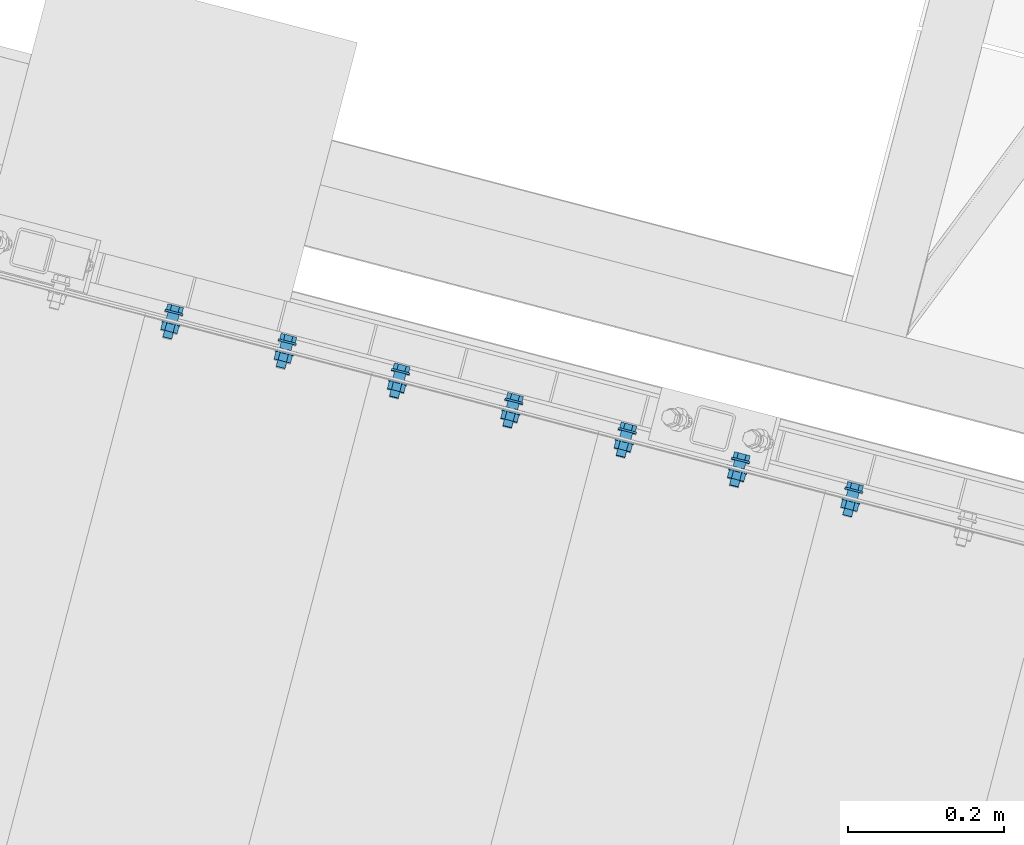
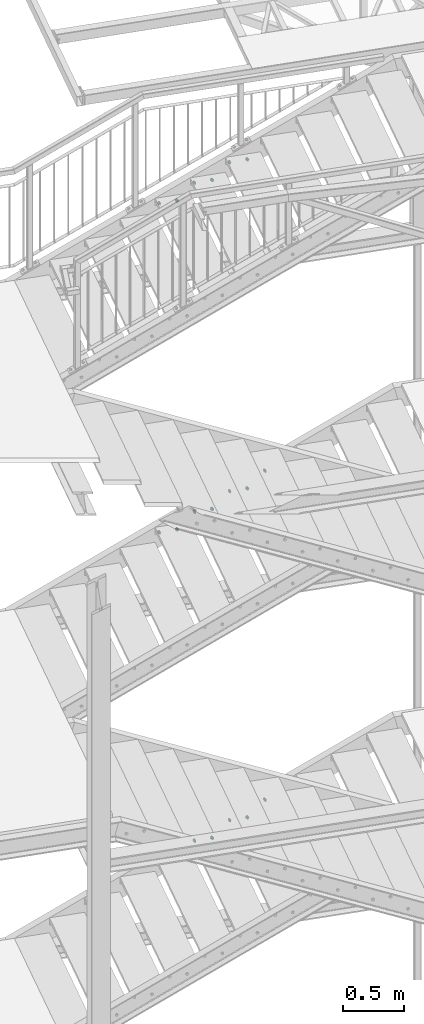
# One storey, part 150 of 169: 18 mechanical fasteners, 10 elements without a shape of their own.
"""IFC2X3 building model written with IfcOpenShell, lengths in millimetres."""

from ifc_helpers import new_model, si_unit, frame, frame_2d, origin_with_axes, origin_2d_with_axis, place, context, subcontext, project, spatial, polyline, circle_curve, parameter, trimmed, segment, composite_curve, circle, outline, extrude, source, transform, mapped, material, type_object, element, aggregate, save


model = new_model("IFC2X3")

# Units and contexts
model_context = context("Model", 3, precision=1e-05, world=origin_with_axes())
body_context = subcontext(model_context, "Body", "Model", "MODEL_VIEW")
ifc_project = project(units=[si_unit("LENGTHUNIT", "METRE", prefix="MILLI"), si_unit("AREAUNIT", "SQUARE_METRE"), si_unit("VOLUMEUNIT", "CUBIC_METRE"), si_unit("MASSUNIT", "GRAM", prefix="KILO"), si_unit("TIMEUNIT", "SECOND"), si_unit("PLANEANGLEUNIT", "RADIAN"), si_unit("SOLIDANGLEUNIT", "STERADIAN"), si_unit("THERMODYNAMICTEMPERATUREUNIT", "DEGREE_CELSIUS"), si_unit("LUMINOUSINTENSITYUNIT", "LUMEN")], contexts=[model_context])

# Site, building, storey
site_placement = place(None, origin_with_axes())
site = spatial("IfcSite", under=ifc_project, at=site_placement, Name="Undefined", CompositionType="ELEMENT")
building_placement = place(site_placement, origin_with_axes())
building = spatial("IfcBuilding", under=site, at=building_placement, Name="Undefined", CompositionType="ELEMENT")
storey_placement = place(building_placement, origin_with_axes())
storey = spatial("IfcBuildingStorey", under=building, at=storey_placement, Name="Undefined", CompositionType="ELEMENT", Elevation=0.0)

# Assembly, mechanical fastener
assembly_1_placement = place(storey_placement, origin_with_axes())
assembly_1 = element("IfcElementAssembly", 1, at=assembly_1_placement, inside=storey, Name="Steel Assembly", AssemblyPlace="NOTDEFINED", PredefinedType="RIGID_FRAME")
ifc_material = material(Name="Undefined")
discrete_accessory_type = type_object("IfcDiscreteAccessoryType", Name="Bolt assembly")
shared_shape_1 = source(origin_with_axes(), body_context, "Body", "SweptSolid", [
    extrude(circle(Radius=7.5, at=origin_2d_with_axis()), frame((0.0, -8.39999975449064, 0.0), z_axis=(0.0, 1.0, 0.0), x_axis=(1.0, 0.0, 0.0)), (0.0, 0.0, 1.0), 8.5),
    extrude(circle(Radius=7.5, at=origin_2d_with_axis()), frame((0.0, -0.100000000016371, 0.0), z_axis=(0.0, 1.0, 0.0), x_axis=(1.0, 0.0, 0.0)), (0.0, 0.0, 1.0), 3.1),
    extrude(outline(polyline([(10.39230484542, 0.0), (5.19615242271, 9.00000000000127), (-5.19615242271, 9.00000000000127), (-10.39230484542, 0.0), (-5.19615242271, -9.00000000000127), (5.19615242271, -9.00000000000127), (10.39230484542, 0.0)])), frame((0.0, -18.4999993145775, 0.0), z_axis=(0.0, 1.0, 0.0), x_axis=(1.0, 0.0, 0.0)), (0.0, 0.0, 1.0), 7.5),
    extrude(circle(Radius=6.0, at=origin_2d_with_axis()), frame((0.0, -10.9999999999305, 0.0), z_axis=(0.0, 1.0, 0.0), x_axis=(1.0, 0.0, 0.0)), (0.0, 0.0, 1.0), 35.0),
    extrude(circle(Radius=12.0, at=origin_2d_with_axis()), frame((0.0, -10.9999999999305, 0.0), z_axis=(0.0, 1.0, 0.0), x_axis=(1.0, 0.0, 0.0)), (0.0, 0.0, 1.0), 2.5),
    extrude(circle(Radius=12.0, at=origin_2d_with_axis()), frame((0.0, 2.99999999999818, 0.0), z_axis=(0.0, 1.0, 0.0), x_axis=(1.0, 0.0, 0.0)), (0.0, 0.0, 1.0), 2.5),
    extrude(outline(polyline([(10.96965511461, 0.0), (5.484827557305, 9.50000000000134), (-5.484827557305, 9.50000000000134), (-10.96965511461, 0.0), (-5.484827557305, -9.50000000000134), (5.484827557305, -9.50000000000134), (10.96965511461, 0.0)])), frame((0.0, 5.50000000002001, 0.0), z_axis=(0.0, 1.0, 0.0), x_axis=(1.0, 0.0, 0.0)), (0.0, 0.0, 1.0), 10.0),
])
mechanical_fastener_1_placement = place(assembly_1_placement, frame((-25824.2027899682, 8309.89860912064, 13250.0957858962), z_axis=(-2.54700353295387e-10, 0.0, -1.0), x_axis=(0.967580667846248, -0.252562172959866, 0.0)))
mechanical_fastener_1 = element("IfcMechanicalFastener", 2, at=mechanical_fastener_1_placement, type_object=discrete_accessory_type, material=ifc_material, Name="Bolt assembly", NominalDiameter=12.0, NominalLength=35.0, context=body_context, shape_type="MappedRepresentation", body=[
    mapped(shared_shape_1, transform((35.0000000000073, -1.23691279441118e-10, 25.0))),
])

assembly_2_placement = place(storey_placement, origin_with_axes())
assembly_2 = element("IfcElementAssembly", 3, at=assembly_2_placement, inside=storey, Name="Steel Assembly", AssemblyPlace="NOTDEFINED", PredefinedType="RIGID_FRAME")
mechanical_fastener_2_placement = place(assembly_2_placement, frame((-26114.4769937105, 8385.66726192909, 13100.0957858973), z_axis=(-2.54700353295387e-10, 0.0, -1.0), x_axis=(0.967580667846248, -0.252562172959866, 0.0)))
mechanical_fastener_2 = element("IfcMechanicalFastener", 4, at=mechanical_fastener_2_placement, type_object=discrete_accessory_type, material=ifc_material, Name="Bolt assembly", NominalDiameter=12.0, NominalLength=35.0, context=body_context, shape_type="MappedRepresentation", body=[
    mapped(shared_shape_1, transform((35.0000000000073, -1.23691279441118e-10, 25.0))),
])

assembly_3_placement = place(storey_placement, origin_with_axes())
assembly_3 = element("IfcElementAssembly", 5, at=assembly_3_placement, inside=storey, Name="Steel Assembly", AssemblyPlace="NOTDEFINED", PredefinedType="RIGID_FRAME")
mechanical_fastener_3_placement = place(assembly_3_placement, frame((-26404.7511974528, 8461.43591473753, 12950.0957858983), z_axis=(-2.54700353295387e-10, 0.0, -1.0), x_axis=(0.967580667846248, -0.252562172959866, 0.0)))
mechanical_fastener_3 = element("IfcMechanicalFastener", 6, at=mechanical_fastener_3_placement, type_object=discrete_accessory_type, material=ifc_material, Name="Bolt assembly", NominalDiameter=12.0, NominalLength=35.0, context=body_context, shape_type="MappedRepresentation", body=[
    mapped(shared_shape_1, transform((35.0000000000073, -1.23691279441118e-10, 25.0))),
])

assembly_4_placement = place(storey_placement, origin_with_axes())
assembly_4 = element("IfcElementAssembly", 7, at=assembly_4_placement, inside=storey, Name="Steel Assembly", AssemblyPlace="NOTDEFINED", PredefinedType="RIGID_FRAME")
mechanical_fastener_4_placement = place(assembly_4_placement, frame((-25534.0426635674, 8233.69304134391, 10100.0958168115), z_axis=(-2.54700353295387e-10, 0.0, -1.0), x_axis=(0.967580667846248, -0.252562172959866, 0.0)))
mechanical_fastener_4 = element("IfcMechanicalFastener", 8, at=mechanical_fastener_4_placement, type_object=discrete_accessory_type, material=ifc_material, Name="Bolt assembly", NominalDiameter=12.0, NominalLength=35.0, context=body_context, shape_type="MappedRepresentation", body=[
    mapped(shared_shape_1, transform((35.0000000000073, -1.23691279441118e-10, 25.0))),
])
aggregate(assembly_4, [mechanical_fastener_4])

assembly_5_placement = place(storey_placement, origin_with_axes())
assembly_5 = element("IfcElementAssembly", 9, at=assembly_5_placement, inside=storey, Name="Steel Assembly", AssemblyPlace="NOTDEFINED", PredefinedType="RIGID_FRAME")
mechanical_fastener_5_placement = place(assembly_5_placement, frame((-25824.3168673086, 8309.46169415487, 9950.09581681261), z_axis=(-2.54700353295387e-10, 0.0, -1.0), x_axis=(0.967580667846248, -0.252562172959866, 0.0)))
mechanical_fastener_5 = element("IfcMechanicalFastener", 10, at=mechanical_fastener_5_placement, type_object=discrete_accessory_type, material=ifc_material, Name="Bolt assembly", NominalDiameter=12.0, NominalLength=35.0, context=body_context, shape_type="MappedRepresentation", body=[
    mapped(shared_shape_1, transform((35.0000000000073, -1.23691279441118e-10, 25.0))),
])

assembly_6_placement = place(storey_placement, origin_with_axes())
assembly_6 = element("IfcElementAssembly", 11, at=assembly_6_placement, inside=storey, Name="Steel Assembly", AssemblyPlace="NOTDEFINED", PredefinedType="RIGID_FRAME")
mechanical_fastener_6_placement = place(assembly_6_placement, frame((-26114.5910710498, 8385.23034696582, 9800.09581681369), z_axis=(-2.54700353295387e-10, 0.0, -1.0), x_axis=(0.967580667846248, -0.252562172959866, 0.0)))
mechanical_fastener_6 = element("IfcMechanicalFastener", 12, at=mechanical_fastener_6_placement, type_object=discrete_accessory_type, material=ifc_material, Name="Bolt assembly", NominalDiameter=12.0, NominalLength=35.0, context=body_context, shape_type="MappedRepresentation", body=[
    mapped(shared_shape_1, transform((35.0000000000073, -1.23691279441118e-10, 25.0))),
])

assembly_7_placement = place(storey_placement, origin_with_axes())
assembly_7 = element("IfcElementAssembly", 13, at=assembly_7_placement, inside=storey, Name="Steel Assembly", AssemblyPlace="NOTDEFINED", PredefinedType="RIGID_FRAME")
mechanical_fastener_7_placement = place(assembly_7_placement, frame((-26404.865274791, 8460.99899977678, 9650.09581681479), z_axis=(-2.54700353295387e-10, 0.0, -1.0), x_axis=(0.967580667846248, -0.252562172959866, 0.0)))
mechanical_fastener_7 = element("IfcMechanicalFastener", 14, at=mechanical_fastener_7_placement, type_object=discrete_accessory_type, material=ifc_material, Name="Bolt assembly", NominalDiameter=12.0, NominalLength=35.0, context=body_context, shape_type="MappedRepresentation", body=[
    mapped(shared_shape_1, transform((35.0000000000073, -1.23691279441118e-10, 25.0))),
])

assembly_8_placement = place(storey_placement, origin_with_axes())
assembly_8 = element("IfcElementAssembly", 15, at=assembly_8_placement, inside=storey, Name="Steel Assembly", AssemblyPlace="NOTDEFINED", PredefinedType="RIGID_FRAME")
mechanical_fastener_8_placement = place(assembly_8_placement, frame((-25534.1567410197, 8233.25612638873, 6800.09584768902), z_axis=(-2.54700353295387e-10, 0.0, -1.0), x_axis=(0.967580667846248, -0.252562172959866, 0.0)))
mechanical_fastener_8 = element("IfcMechanicalFastener", 16, at=mechanical_fastener_8_placement, type_object=discrete_accessory_type, material=ifc_material, Name="Bolt assembly", NominalDiameter=12.0, NominalLength=35.0, context=body_context, shape_type="MappedRepresentation", body=[
    mapped(shared_shape_1, transform((35.0000000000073, -1.23691279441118e-10, 25.0))),
])
aggregate(assembly_8, [mechanical_fastener_8])

assembly_9_placement = place(storey_placement, origin_with_axes())
assembly_9 = element("IfcElementAssembly", 17, at=assembly_9_placement, inside=storey, Name="Steel Assembly", AssemblyPlace="NOTDEFINED", PredefinedType="RIGID_FRAME")
mechanical_fastener_9_placement = place(assembly_9_placement, frame((-25824.4309447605, 8309.02477919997, 6650.09584768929), z_axis=(-2.54700353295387e-10, 0.0, -1.0), x_axis=(0.967580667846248, -0.252562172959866, 0.0)))
mechanical_fastener_9 = element("IfcMechanicalFastener", 18, at=mechanical_fastener_9_placement, type_object=discrete_accessory_type, material=ifc_material, Name="Bolt assembly", NominalDiameter=12.0, NominalLength=35.0, context=body_context, shape_type="MappedRepresentation", body=[
    mapped(shared_shape_1, transform((35.0000000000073, -1.23691279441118e-10, 25.0))),
])

assembly_10_placement = place(storey_placement, origin_with_axes())
assembly_10 = element("IfcElementAssembly", 19, at=assembly_10_placement, inside=storey, Name="Steel Assembly", AssemblyPlace="NOTDEFINED", PredefinedType="RIGID_FRAME")
mechanical_fastener_10_placement = place(assembly_10_placement, frame((-26114.7051485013, 8384.7934320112, 6500.09584768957), z_axis=(-2.54700353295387e-10, 0.0, -1.0), x_axis=(0.967580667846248, -0.252562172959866, 0.0)))
mechanical_fastener_10 = element("IfcMechanicalFastener", 20, at=mechanical_fastener_10_placement, type_object=discrete_accessory_type, material=ifc_material, Name="Bolt assembly", NominalDiameter=12.0, NominalLength=35.0, context=body_context, shape_type="MappedRepresentation", body=[
    mapped(shared_shape_1, transform((35.0000000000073, -1.23691279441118e-10, 25.0))),
])

# Mechanical fastener
shared_shape_2 = source(origin_with_axes(), body_context, "Body", "SweptSolid", [
    extrude(circle(Radius=7.5, at=origin_2d_with_axis()), frame((0.0, -8.39999975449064, 0.0), z_axis=(0.0, 1.0, 0.0), x_axis=(1.0, 0.0, 0.0)), (0.0, 0.0, 1.0), 8.5),
    extrude(outline(composite_curve([segment(polyline([(-10.0, 7.5), (10.0, 7.5)]), True, "CONTINUOUS"), segment(trimmed(circle_curve(frame_2d((10.0, 0.0), x_axis=(0.0, 1.0)), 7.5), [parameter(0.0)], [parameter(3.14159265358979)], False, "PARAMETER"), True, "CONTINUOUS"), segment(polyline([(10.0, -7.5), (-10.0, -7.5)]), True, "CONTINUOUS"), segment(trimmed(circle_curve(frame_2d((-10.0, 0.0), x_axis=(0.0, -1.0)), 7.5), [parameter(0.0)], [parameter(3.14159265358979)], False, "PARAMETER"), True, "DISCONTINUOUS")], self_intersect=False)), frame((0.0, -0.100000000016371, 0.0), z_axis=(0.0, 1.0, 0.0), x_axis=(1.0, 0.0, 0.0)), (0.0, 0.0, 1.0), 3.1),
    extrude(outline(polyline([(10.39230484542, 0.0), (5.19615242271, 9.00000000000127), (-5.19615242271, 9.00000000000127), (-10.39230484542, 0.0), (-5.19615242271, -9.00000000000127), (5.19615242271, -9.00000000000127), (10.39230484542, 0.0)])), frame((0.0, -18.4999993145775, 0.0), z_axis=(0.0, 1.0, 0.0), x_axis=(1.0, 0.0, 0.0)), (0.0, 0.0, 1.0), 7.5),
    extrude(circle(Radius=6.0, at=origin_2d_with_axis()), frame((0.0, -10.9999999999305, 0.0), z_axis=(0.0, 1.0, 0.0), x_axis=(1.0, 0.0, 0.0)), (0.0, 0.0, 1.0), 35.0),
    extrude(circle(Radius=12.0, at=origin_2d_with_axis()), frame((0.0, -10.9999999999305, 0.0), z_axis=(0.0, 1.0, 0.0), x_axis=(1.0, 0.0, 0.0)), (0.0, 0.0, 1.0), 2.5),
    extrude(circle(Radius=12.0, at=origin_2d_with_axis()), frame((0.0, 2.99999999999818, 0.0), z_axis=(0.0, 1.0, 0.0), x_axis=(1.0, 0.0, 0.0)), (0.0, 0.0, 1.0), 2.5),
    extrude(outline(polyline([(10.96965511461, 0.0), (5.484827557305, 9.50000000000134), (-5.484827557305, 9.50000000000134), (-10.96965511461, 0.0), (-5.484827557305, -9.50000000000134), (5.484827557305, -9.50000000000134), (10.96965511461, 0.0)])), frame((0.0, 5.50000000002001, 0.0), z_axis=(0.0, 1.0, 0.0), x_axis=(1.0, 0.0, 0.0)), (0.0, 0.0, 1.0), 10.0),
])
mechanical_fastener_11_placement = place(assembly_1_placement, frame((-25824.2027899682, 8309.89860912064, 13250.0957858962), z_axis=(-2.54700353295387e-10, 0.0, -1.0), x_axis=(0.967580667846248, -0.252562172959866, 0.0)))
mechanical_fastener_11 = element("IfcMechanicalFastener", 21, at=mechanical_fastener_11_placement, type_object=discrete_accessory_type, material=ifc_material, Name="Bolt assembly", NominalDiameter=12.0, NominalLength=35.0, context=body_context, shape_type="MappedRepresentation", body=[
    mapped(shared_shape_2, transform((185.00000000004, -6.51198206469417e-10, 25.0))),
])

aggregate(assembly_1, [mechanical_fastener_11, mechanical_fastener_1])

shared_shape_3 = source(origin_with_axes(), body_context, "Body", "SweptSolid", [
    extrude(circle(Radius=7.5, at=origin_2d_with_axis()), frame((0.0, -8.39999975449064, 0.0), z_axis=(0.0, 1.0, 0.0), x_axis=(1.0, 0.0, 0.0)), (0.0, 0.0, 1.0), 8.5),
    extrude(outline(composite_curve([segment(polyline([(-10.0, 7.5), (10.0, 7.5)]), True, "CONTINUOUS"), segment(trimmed(circle_curve(frame_2d((10.0, 0.0), x_axis=(0.0, 1.0)), 7.5), [parameter(0.0)], [parameter(3.14159265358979)], False, "PARAMETER"), True, "CONTINUOUS"), segment(polyline([(10.0, -7.5), (-10.0, -7.5)]), True, "CONTINUOUS"), segment(trimmed(circle_curve(frame_2d((-10.0, 0.0), x_axis=(0.0, -1.0)), 7.5), [parameter(0.0)], [parameter(3.14159265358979)], False, "PARAMETER"), True, "DISCONTINUOUS")], self_intersect=False)), frame((0.0, -0.100000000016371, 0.0), z_axis=(0.0, 1.0, 0.0), x_axis=(1.0, 0.0, 0.0)), (0.0, 0.0, 1.0), 3.1),
    extrude(outline(polyline([(10.39230484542, 0.0), (5.19615242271, 9.00000000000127), (-5.19615242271, 9.00000000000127), (-10.39230484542, 0.0), (-5.19615242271, -9.00000000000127), (5.19615242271, -9.00000000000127), (10.39230484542, 0.0)])), frame((0.0, -18.4999993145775, 0.0), z_axis=(0.0, 1.0, 0.0), x_axis=(1.0, 0.0, 0.0)), (0.0, 0.0, 1.0), 7.5),
    extrude(circle(Radius=6.0, at=origin_2d_with_axis()), frame((0.0, -10.9999999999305, 0.0), z_axis=(0.0, 1.0, 0.0), x_axis=(1.0, 0.0, 0.0)), (0.0, 0.0, 1.0), 35.0),
    extrude(circle(Radius=12.0, at=origin_2d_with_axis()), frame((0.0, -10.9999999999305, 0.0), z_axis=(0.0, 1.0, 0.0), x_axis=(1.0, 0.0, 0.0)), (0.0, 0.0, 1.0), 2.5),
    extrude(circle(Radius=12.0, at=origin_2d_with_axis()), frame((0.0, 2.99999999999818, 0.0), z_axis=(0.0, 1.0, 0.0), x_axis=(1.0, 0.0, 0.0)), (0.0, 0.0, 1.0), 2.5),
    extrude(outline(polyline([(10.96965511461, 0.0), (5.484827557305, 9.50000000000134), (-5.484827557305, 9.50000000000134), (-10.96965511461, 0.0), (-5.484827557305, -9.50000000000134), (5.484827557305, -9.50000000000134), (10.96965511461, 0.0)])), frame((0.0, 5.50000000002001, 0.0), z_axis=(0.0, 1.0, 0.0), x_axis=(1.0, 0.0, 0.0)), (0.0, 0.0, 1.0), 10.0),
])
mechanical_fastener_12_placement = place(assembly_2_placement, frame((-26114.4769937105, 8385.66726192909, 13100.0957858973), z_axis=(-2.54700353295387e-10, 0.0, -1.0), x_axis=(0.967580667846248, -0.252562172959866, 0.0)))
mechanical_fastener_12 = element("IfcMechanicalFastener", 22, at=mechanical_fastener_12_placement, type_object=discrete_accessory_type, material=ifc_material, Name="Bolt assembly", NominalDiameter=12.0, NominalLength=35.0, context=body_context, shape_type="MappedRepresentation", body=[
    mapped(shared_shape_3, transform((185.00000000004, -6.51198206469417e-10, 25.0))),
])

aggregate(assembly_2, [mechanical_fastener_12, mechanical_fastener_2])

shared_shape_4 = source(origin_with_axes(), body_context, "Body", "SweptSolid", [
    extrude(circle(Radius=7.5, at=origin_2d_with_axis()), frame((0.0, -8.39999975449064, 0.0), z_axis=(0.0, 1.0, 0.0), x_axis=(1.0, 0.0, 0.0)), (0.0, 0.0, 1.0), 8.5),
    extrude(outline(composite_curve([segment(polyline([(-10.0, 7.5), (10.0, 7.5)]), True, "CONTINUOUS"), segment(trimmed(circle_curve(frame_2d((10.0, 0.0), x_axis=(0.0, 1.0)), 7.5), [parameter(0.0)], [parameter(3.14159265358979)], False, "PARAMETER"), True, "CONTINUOUS"), segment(polyline([(10.0, -7.5), (-10.0, -7.5)]), True, "CONTINUOUS"), segment(trimmed(circle_curve(frame_2d((-10.0, 0.0), x_axis=(0.0, -1.0)), 7.5), [parameter(0.0)], [parameter(3.14159265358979)], False, "PARAMETER"), True, "DISCONTINUOUS")], self_intersect=False)), frame((0.0, -0.100000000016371, 0.0), z_axis=(0.0, 1.0, 0.0), x_axis=(1.0, 0.0, 0.0)), (0.0, 0.0, 1.0), 3.1),
    extrude(outline(polyline([(10.39230484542, 0.0), (5.19615242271, 9.00000000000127), (-5.19615242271, 9.00000000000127), (-10.39230484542, 0.0), (-5.19615242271, -9.00000000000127), (5.19615242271, -9.00000000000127), (10.39230484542, 0.0)])), frame((0.0, -18.4999993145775, 0.0), z_axis=(0.0, 1.0, 0.0), x_axis=(1.0, 0.0, 0.0)), (0.0, 0.0, 1.0), 7.5),
    extrude(circle(Radius=6.0, at=origin_2d_with_axis()), frame((0.0, -10.9999999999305, 0.0), z_axis=(0.0, 1.0, 0.0), x_axis=(1.0, 0.0, 0.0)), (0.0, 0.0, 1.0), 35.0),
    extrude(circle(Radius=12.0, at=origin_2d_with_axis()), frame((0.0, -10.9999999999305, 0.0), z_axis=(0.0, 1.0, 0.0), x_axis=(1.0, 0.0, 0.0)), (0.0, 0.0, 1.0), 2.5),
    extrude(circle(Radius=12.0, at=origin_2d_with_axis()), frame((0.0, 2.99999999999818, 0.0), z_axis=(0.0, 1.0, 0.0), x_axis=(1.0, 0.0, 0.0)), (0.0, 0.0, 1.0), 2.5),
    extrude(outline(polyline([(10.96965511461, 0.0), (5.484827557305, 9.50000000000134), (-5.484827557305, 9.50000000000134), (-10.96965511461, 0.0), (-5.484827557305, -9.50000000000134), (5.484827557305, -9.50000000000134), (10.96965511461, 0.0)])), frame((0.0, 5.50000000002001, 0.0), z_axis=(0.0, 1.0, 0.0), x_axis=(1.0, 0.0, 0.0)), (0.0, 0.0, 1.0), 10.0),
])
mechanical_fastener_13_placement = place(assembly_3_placement, frame((-26404.7511974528, 8461.43591473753, 12950.0957858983), z_axis=(-2.54700353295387e-10, 0.0, -1.0), x_axis=(0.967580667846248, -0.252562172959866, 0.0)))
mechanical_fastener_13 = element("IfcMechanicalFastener", 23, at=mechanical_fastener_13_placement, type_object=discrete_accessory_type, material=ifc_material, Name="Bolt assembly", NominalDiameter=12.0, NominalLength=35.0, context=body_context, shape_type="MappedRepresentation", body=[
    mapped(shared_shape_4, transform((185.00000000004, -6.51198206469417e-10, 25.0))),
])

aggregate(assembly_3, [mechanical_fastener_13, mechanical_fastener_3])

shared_shape_5 = source(origin_with_axes(), body_context, "Body", "SweptSolid", [
    extrude(circle(Radius=7.5, at=origin_2d_with_axis()), frame((0.0, -8.39999975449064, 0.0), z_axis=(0.0, 1.0, 0.0), x_axis=(1.0, 0.0, 0.0)), (0.0, 0.0, 1.0), 8.5),
    extrude(outline(composite_curve([segment(polyline([(-10.0, 7.5), (10.0, 7.5)]), True, "CONTINUOUS"), segment(trimmed(circle_curve(frame_2d((10.0, 0.0), x_axis=(0.0, 1.0)), 7.5), [parameter(0.0)], [parameter(3.14159265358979)], False, "PARAMETER"), True, "CONTINUOUS"), segment(polyline([(10.0, -7.5), (-10.0, -7.5)]), True, "CONTINUOUS"), segment(trimmed(circle_curve(frame_2d((-10.0, 0.0), x_axis=(0.0, -1.0)), 7.5), [parameter(0.0)], [parameter(3.14159265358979)], False, "PARAMETER"), True, "DISCONTINUOUS")], self_intersect=False)), frame((0.0, -0.100000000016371, 0.0), z_axis=(0.0, 1.0, 0.0), x_axis=(1.0, 0.0, 0.0)), (0.0, 0.0, 1.0), 3.1),
    extrude(outline(polyline([(10.39230484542, 0.0), (5.19615242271, 9.00000000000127), (-5.19615242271, 9.00000000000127), (-10.39230484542, 0.0), (-5.19615242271, -9.00000000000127), (5.19615242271, -9.00000000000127), (10.39230484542, 0.0)])), frame((0.0, -18.4999993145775, 0.0), z_axis=(0.0, 1.0, 0.0), x_axis=(1.0, 0.0, 0.0)), (0.0, 0.0, 1.0), 7.5),
    extrude(circle(Radius=6.0, at=origin_2d_with_axis()), frame((0.0, -10.9999999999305, 0.0), z_axis=(0.0, 1.0, 0.0), x_axis=(1.0, 0.0, 0.0)), (0.0, 0.0, 1.0), 35.0),
    extrude(circle(Radius=12.0, at=origin_2d_with_axis()), frame((0.0, -10.9999999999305, 0.0), z_axis=(0.0, 1.0, 0.0), x_axis=(1.0, 0.0, 0.0)), (0.0, 0.0, 1.0), 2.5),
    extrude(circle(Radius=12.0, at=origin_2d_with_axis()), frame((0.0, 2.99999999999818, 0.0), z_axis=(0.0, 1.0, 0.0), x_axis=(1.0, 0.0, 0.0)), (0.0, 0.0, 1.0), 2.5),
    extrude(outline(polyline([(10.96965511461, 0.0), (5.484827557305, 9.50000000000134), (-5.484827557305, 9.50000000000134), (-10.96965511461, 0.0), (-5.484827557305, -9.50000000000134), (5.484827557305, -9.50000000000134), (10.96965511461, 0.0)])), frame((0.0, 5.50000000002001, 0.0), z_axis=(0.0, 1.0, 0.0), x_axis=(1.0, 0.0, 0.0)), (0.0, 0.0, 1.0), 10.0),
])
mechanical_fastener_14_placement = place(assembly_5_placement, frame((-25824.3168673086, 8309.46169415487, 9950.09581681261), z_axis=(-2.54700353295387e-10, 0.0, -1.0), x_axis=(0.967580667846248, -0.252562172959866, 0.0)))
mechanical_fastener_14 = element("IfcMechanicalFastener", 24, at=mechanical_fastener_14_placement, type_object=discrete_accessory_type, material=ifc_material, Name="Bolt assembly", NominalDiameter=12.0, NominalLength=35.0, context=body_context, shape_type="MappedRepresentation", body=[
    mapped(shared_shape_5, transform((185.00000000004, -6.51198206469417e-10, 25.0))),
])

aggregate(assembly_5, [mechanical_fastener_14, mechanical_fastener_5])

shared_shape_6 = source(origin_with_axes(), body_context, "Body", "SweptSolid", [
    extrude(circle(Radius=7.5, at=origin_2d_with_axis()), frame((0.0, -8.39999975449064, 0.0), z_axis=(0.0, 1.0, 0.0), x_axis=(1.0, 0.0, 0.0)), (0.0, 0.0, 1.0), 8.5),
    extrude(outline(composite_curve([segment(polyline([(-10.0, 7.5), (10.0, 7.5)]), True, "CONTINUOUS"), segment(trimmed(circle_curve(frame_2d((10.0, 0.0), x_axis=(0.0, 1.0)), 7.5), [parameter(0.0)], [parameter(3.14159265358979)], False, "PARAMETER"), True, "CONTINUOUS"), segment(polyline([(10.0, -7.5), (-10.0, -7.5)]), True, "CONTINUOUS"), segment(trimmed(circle_curve(frame_2d((-10.0, 0.0), x_axis=(0.0, -1.0)), 7.5), [parameter(0.0)], [parameter(3.14159265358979)], False, "PARAMETER"), True, "DISCONTINUOUS")], self_intersect=False)), frame((0.0, -0.100000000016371, 0.0), z_axis=(0.0, 1.0, 0.0), x_axis=(1.0, 0.0, 0.0)), (0.0, 0.0, 1.0), 3.1),
    extrude(outline(polyline([(10.39230484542, 0.0), (5.19615242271, 9.00000000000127), (-5.19615242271, 9.00000000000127), (-10.39230484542, 0.0), (-5.19615242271, -9.00000000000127), (5.19615242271, -9.00000000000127), (10.39230484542, 0.0)])), frame((0.0, -18.4999993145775, 0.0), z_axis=(0.0, 1.0, 0.0), x_axis=(1.0, 0.0, 0.0)), (0.0, 0.0, 1.0), 7.5),
    extrude(circle(Radius=6.0, at=origin_2d_with_axis()), frame((0.0, -10.9999999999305, 0.0), z_axis=(0.0, 1.0, 0.0), x_axis=(1.0, 0.0, 0.0)), (0.0, 0.0, 1.0), 35.0),
    extrude(circle(Radius=12.0, at=origin_2d_with_axis()), frame((0.0, -10.9999999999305, 0.0), z_axis=(0.0, 1.0, 0.0), x_axis=(1.0, 0.0, 0.0)), (0.0, 0.0, 1.0), 2.5),
    extrude(circle(Radius=12.0, at=origin_2d_with_axis()), frame((0.0, 2.99999999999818, 0.0), z_axis=(0.0, 1.0, 0.0), x_axis=(1.0, 0.0, 0.0)), (0.0, 0.0, 1.0), 2.5),
    extrude(outline(polyline([(10.96965511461, 0.0), (5.484827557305, 9.50000000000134), (-5.484827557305, 9.50000000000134), (-10.96965511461, 0.0), (-5.484827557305, -9.50000000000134), (5.484827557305, -9.50000000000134), (10.96965511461, 0.0)])), frame((0.0, 5.50000000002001, 0.0), z_axis=(0.0, 1.0, 0.0), x_axis=(1.0, 0.0, 0.0)), (0.0, 0.0, 1.0), 10.0),
])
mechanical_fastener_15_placement = place(assembly_6_placement, frame((-26114.5910710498, 8385.23034696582, 9800.09581681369), z_axis=(-2.54700353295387e-10, 0.0, -1.0), x_axis=(0.967580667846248, -0.252562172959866, 0.0)))
mechanical_fastener_15 = element("IfcMechanicalFastener", 25, at=mechanical_fastener_15_placement, type_object=discrete_accessory_type, material=ifc_material, Name="Bolt assembly", NominalDiameter=12.0, NominalLength=35.0, context=body_context, shape_type="MappedRepresentation", body=[
    mapped(shared_shape_6, transform((185.00000000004, -6.51198206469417e-10, 25.0))),
])

aggregate(assembly_6, [mechanical_fastener_15, mechanical_fastener_6])

shared_shape_7 = source(origin_with_axes(), body_context, "Body", "SweptSolid", [
    extrude(circle(Radius=7.5, at=origin_2d_with_axis()), frame((0.0, -8.39999975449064, 0.0), z_axis=(0.0, 1.0, 0.0), x_axis=(1.0, 0.0, 0.0)), (0.0, 0.0, 1.0), 8.5),
    extrude(outline(composite_curve([segment(polyline([(-10.0, 7.5), (10.0, 7.5)]), True, "CONTINUOUS"), segment(trimmed(circle_curve(frame_2d((10.0, 0.0), x_axis=(0.0, 1.0)), 7.5), [parameter(0.0)], [parameter(3.14159265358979)], False, "PARAMETER"), True, "CONTINUOUS"), segment(polyline([(10.0, -7.5), (-10.0, -7.5)]), True, "CONTINUOUS"), segment(trimmed(circle_curve(frame_2d((-10.0, 0.0), x_axis=(0.0, -1.0)), 7.5), [parameter(0.0)], [parameter(3.14159265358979)], False, "PARAMETER"), True, "DISCONTINUOUS")], self_intersect=False)), frame((0.0, -0.100000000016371, 0.0), z_axis=(0.0, 1.0, 0.0), x_axis=(1.0, 0.0, 0.0)), (0.0, 0.0, 1.0), 3.1),
    extrude(outline(polyline([(10.39230484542, 0.0), (5.19615242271, 9.00000000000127), (-5.19615242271, 9.00000000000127), (-10.39230484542, 0.0), (-5.19615242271, -9.00000000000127), (5.19615242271, -9.00000000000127), (10.39230484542, 0.0)])), frame((0.0, -18.4999993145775, 0.0), z_axis=(0.0, 1.0, 0.0), x_axis=(1.0, 0.0, 0.0)), (0.0, 0.0, 1.0), 7.5),
    extrude(circle(Radius=6.0, at=origin_2d_with_axis()), frame((0.0, -10.9999999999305, 0.0), z_axis=(0.0, 1.0, 0.0), x_axis=(1.0, 0.0, 0.0)), (0.0, 0.0, 1.0), 35.0),
    extrude(circle(Radius=12.0, at=origin_2d_with_axis()), frame((0.0, -10.9999999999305, 0.0), z_axis=(0.0, 1.0, 0.0), x_axis=(1.0, 0.0, 0.0)), (0.0, 0.0, 1.0), 2.5),
    extrude(circle(Radius=12.0, at=origin_2d_with_axis()), frame((0.0, 2.99999999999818, 0.0), z_axis=(0.0, 1.0, 0.0), x_axis=(1.0, 0.0, 0.0)), (0.0, 0.0, 1.0), 2.5),
    extrude(outline(polyline([(10.96965511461, 0.0), (5.484827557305, 9.50000000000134), (-5.484827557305, 9.50000000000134), (-10.96965511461, 0.0), (-5.484827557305, -9.50000000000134), (5.484827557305, -9.50000000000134), (10.96965511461, 0.0)])), frame((0.0, 5.50000000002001, 0.0), z_axis=(0.0, 1.0, 0.0), x_axis=(1.0, 0.0, 0.0)), (0.0, 0.0, 1.0), 10.0),
])
mechanical_fastener_16_placement = place(assembly_7_placement, frame((-26404.865274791, 8460.99899977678, 9650.09581681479), z_axis=(-2.54700353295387e-10, 0.0, -1.0), x_axis=(0.967580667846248, -0.252562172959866, 0.0)))
mechanical_fastener_16 = element("IfcMechanicalFastener", 26, at=mechanical_fastener_16_placement, type_object=discrete_accessory_type, material=ifc_material, Name="Bolt assembly", NominalDiameter=12.0, NominalLength=35.0, context=body_context, shape_type="MappedRepresentation", body=[
    mapped(shared_shape_7, transform((185.00000000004, -6.51198206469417e-10, 25.0))),
])

aggregate(assembly_7, [mechanical_fastener_16, mechanical_fastener_7])

shared_shape_8 = source(origin_with_axes(), body_context, "Body", "SweptSolid", [
    extrude(circle(Radius=7.5, at=origin_2d_with_axis()), frame((0.0, -8.39999975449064, 0.0), z_axis=(0.0, 1.0, 0.0), x_axis=(1.0, 0.0, 0.0)), (0.0, 0.0, 1.0), 8.5),
    extrude(outline(composite_curve([segment(polyline([(-10.0, 7.5), (10.0, 7.5)]), True, "CONTINUOUS"), segment(trimmed(circle_curve(frame_2d((10.0, 0.0), x_axis=(0.0, 1.0)), 7.5), [parameter(0.0)], [parameter(3.14159265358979)], False, "PARAMETER"), True, "CONTINUOUS"), segment(polyline([(10.0, -7.5), (-10.0, -7.5)]), True, "CONTINUOUS"), segment(trimmed(circle_curve(frame_2d((-10.0, 0.0), x_axis=(0.0, -1.0)), 7.5), [parameter(0.0)], [parameter(3.14159265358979)], False, "PARAMETER"), True, "DISCONTINUOUS")], self_intersect=False)), frame((0.0, -0.100000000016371, 0.0), z_axis=(0.0, 1.0, 0.0), x_axis=(1.0, 0.0, 0.0)), (0.0, 0.0, 1.0), 3.1),
    extrude(outline(polyline([(10.39230484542, 0.0), (5.19615242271, 9.00000000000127), (-5.19615242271, 9.00000000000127), (-10.39230484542, 0.0), (-5.19615242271, -9.00000000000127), (5.19615242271, -9.00000000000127), (10.39230484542, 0.0)])), frame((0.0, -18.4999993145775, 0.0), z_axis=(0.0, 1.0, 0.0), x_axis=(1.0, 0.0, 0.0)), (0.0, 0.0, 1.0), 7.5),
    extrude(circle(Radius=6.0, at=origin_2d_with_axis()), frame((0.0, -10.9999999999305, 0.0), z_axis=(0.0, 1.0, 0.0), x_axis=(1.0, 0.0, 0.0)), (0.0, 0.0, 1.0), 35.0),
    extrude(circle(Radius=12.0, at=origin_2d_with_axis()), frame((0.0, -10.9999999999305, 0.0), z_axis=(0.0, 1.0, 0.0), x_axis=(1.0, 0.0, 0.0)), (0.0, 0.0, 1.0), 2.5),
    extrude(circle(Radius=12.0, at=origin_2d_with_axis()), frame((0.0, 2.99999999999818, 0.0), z_axis=(0.0, 1.0, 0.0), x_axis=(1.0, 0.0, 0.0)), (0.0, 0.0, 1.0), 2.5),
    extrude(outline(polyline([(10.96965511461, 0.0), (5.484827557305, 9.50000000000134), (-5.484827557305, 9.50000000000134), (-10.96965511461, 0.0), (-5.484827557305, -9.50000000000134), (5.484827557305, -9.50000000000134), (10.96965511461, 0.0)])), frame((0.0, 5.50000000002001, 0.0), z_axis=(0.0, 1.0, 0.0), x_axis=(1.0, 0.0, 0.0)), (0.0, 0.0, 1.0), 10.0),
])
mechanical_fastener_17_placement = place(assembly_9_placement, frame((-25824.4309447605, 8309.02477919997, 6650.09584768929), z_axis=(-2.54700353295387e-10, 0.0, -1.0), x_axis=(0.967580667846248, -0.252562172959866, 0.0)))
mechanical_fastener_17 = element("IfcMechanicalFastener", 27, at=mechanical_fastener_17_placement, type_object=discrete_accessory_type, material=ifc_material, Name="Bolt assembly", NominalDiameter=12.0, NominalLength=35.0, context=body_context, shape_type="MappedRepresentation", body=[
    mapped(shared_shape_8, transform((185.00000000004, -6.51198206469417e-10, 25.0))),
])

aggregate(assembly_9, [mechanical_fastener_17, mechanical_fastener_9])

shared_shape_9 = source(origin_with_axes(), body_context, "Body", "SweptSolid", [
    extrude(circle(Radius=7.5, at=origin_2d_with_axis()), frame((0.0, -8.39999975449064, 0.0), z_axis=(0.0, 1.0, 0.0), x_axis=(1.0, 0.0, 0.0)), (0.0, 0.0, 1.0), 8.5),
    extrude(outline(composite_curve([segment(polyline([(-10.0, 7.5), (10.0, 7.5)]), True, "CONTINUOUS"), segment(trimmed(circle_curve(frame_2d((10.0, 0.0), x_axis=(0.0, 1.0)), 7.5), [parameter(0.0)], [parameter(3.14159265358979)], False, "PARAMETER"), True, "CONTINUOUS"), segment(polyline([(10.0, -7.5), (-10.0, -7.5)]), True, "CONTINUOUS"), segment(trimmed(circle_curve(frame_2d((-10.0, 0.0), x_axis=(0.0, -1.0)), 7.5), [parameter(0.0)], [parameter(3.14159265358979)], False, "PARAMETER"), True, "DISCONTINUOUS")], self_intersect=False)), frame((0.0, -0.100000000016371, 0.0), z_axis=(0.0, 1.0, 0.0), x_axis=(1.0, 0.0, 0.0)), (0.0, 0.0, 1.0), 3.1),
    extrude(outline(polyline([(10.39230484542, 0.0), (5.19615242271, 9.00000000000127), (-5.19615242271, 9.00000000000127), (-10.39230484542, 0.0), (-5.19615242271, -9.00000000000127), (5.19615242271, -9.00000000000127), (10.39230484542, 0.0)])), frame((0.0, -18.4999993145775, 0.0), z_axis=(0.0, 1.0, 0.0), x_axis=(1.0, 0.0, 0.0)), (0.0, 0.0, 1.0), 7.5),
    extrude(circle(Radius=6.0, at=origin_2d_with_axis()), frame((0.0, -10.9999999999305, 0.0), z_axis=(0.0, 1.0, 0.0), x_axis=(1.0, 0.0, 0.0)), (0.0, 0.0, 1.0), 35.0),
    extrude(circle(Radius=12.0, at=origin_2d_with_axis()), frame((0.0, -10.9999999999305, 0.0), z_axis=(0.0, 1.0, 0.0), x_axis=(1.0, 0.0, 0.0)), (0.0, 0.0, 1.0), 2.5),
    extrude(circle(Radius=12.0, at=origin_2d_with_axis()), frame((0.0, 2.99999999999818, 0.0), z_axis=(0.0, 1.0, 0.0), x_axis=(1.0, 0.0, 0.0)), (0.0, 0.0, 1.0), 2.5),
    extrude(outline(polyline([(10.96965511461, 0.0), (5.484827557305, 9.50000000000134), (-5.484827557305, 9.50000000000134), (-10.96965511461, 0.0), (-5.484827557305, -9.50000000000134), (5.484827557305, -9.50000000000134), (10.96965511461, 0.0)])), frame((0.0, 5.50000000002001, 0.0), z_axis=(0.0, 1.0, 0.0), x_axis=(1.0, 0.0, 0.0)), (0.0, 0.0, 1.0), 10.0),
])
mechanical_fastener_18_placement = place(assembly_10_placement, frame((-26114.7051485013, 8384.7934320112, 6500.09584768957), z_axis=(-2.54700353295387e-10, 0.0, -1.0), x_axis=(0.967580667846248, -0.252562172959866, 0.0)))
mechanical_fastener_18 = element("IfcMechanicalFastener", 28, at=mechanical_fastener_18_placement, type_object=discrete_accessory_type, material=ifc_material, Name="Bolt assembly", NominalDiameter=12.0, NominalLength=35.0, context=body_context, shape_type="MappedRepresentation", body=[
    mapped(shared_shape_9, transform((185.00000000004, -6.51198206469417e-10, 25.0))),
])

aggregate(assembly_10, [mechanical_fastener_18, mechanical_fastener_10])

save(model, "model.ifc")
